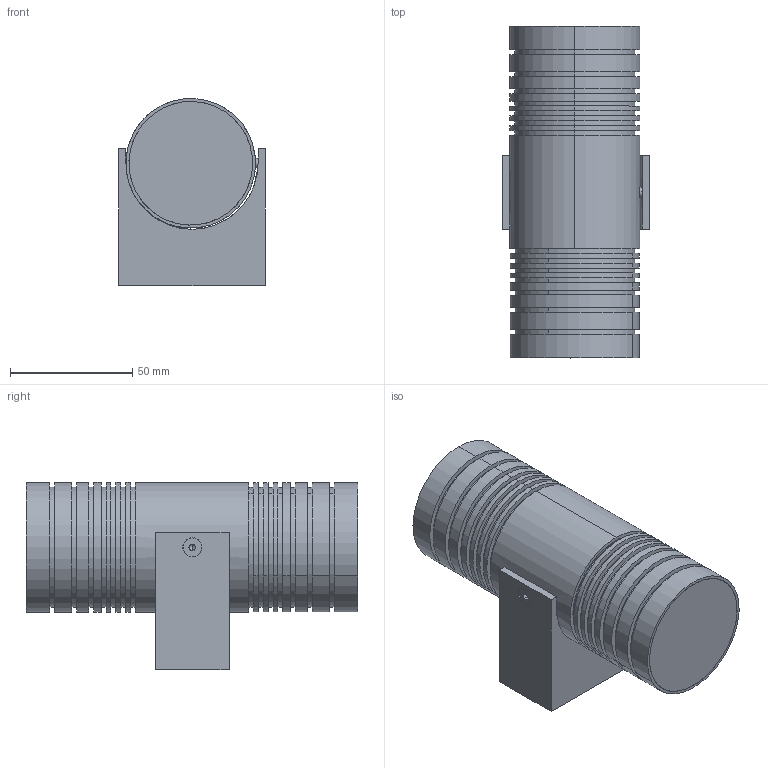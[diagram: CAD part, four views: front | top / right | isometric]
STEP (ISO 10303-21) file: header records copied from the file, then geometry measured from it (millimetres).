
FILE_DESCRIPTION (( 'STEP AP214' ), '1' );
FILE_NAME ('Duplex-2x3.STEP', '2022-07-28T09:09:06', ( '' ), ( '' ), 'SwSTEP 2.0', 'SolidWorks 2020', '' );
FILE_SCHEMA (( 'AUTOMOTIVE_DESIGN' ));
Length unit declared in the file: millimetre
Products named in the file (6): socket countersunk head screw_din_DIN 7991 - M4 x 8 --- 5.6N; RAD-S-Tw-3x2.00.00.02 膰豵鵨_TwN-3 53洵; Duplex-2x3; RAD-S-Tw-3x2.00.00.03 膴鍙欙樥燲v1 53洵; RAD-S-Tw-3x2.00.00.01 膰豵鵨_Tw-3*2 53洵; 栺樏鋋
Assembly tree (7 placements, depth 2):
  Duplex-2x3
    RAD-S-Tw-3x2.00.00.02 膰豵鵨_TwN-3 53洵
    RAD-S-Tw-3x2.00.00.01 膰豵鵨_Tw-3*2 53洵
    RAD-S-Tw-3x2.00.00.03 膴鍙欙樥燲v1 53洵
    栺樏鋋  x2
    socket countersunk head screw_din_DIN 7991 - M4 x 8 --- 5.6N  x2
Bounding box: 60 x 135.7 x 76.5 mm (x, y, z)
Volume: 334226.5 mm3; surface area: 66672.3 mm2
Topology: 7 solids, 7 shells, 205 faces, 440 edges, 278 vertices
Faces by surface type: cylinder 104, plane 81, cone 16, torus 4
Entity records: 5538 total; most frequent: CARTESIAN_POINT 1306, DIRECTION 918, ORIENTED_EDGE 752, AXIS2_PLACEMENT_3D 377, EDGE_CURVE 376, VERTEX_POINT 243, EDGE_LOOP 217, CIRCLE 192
